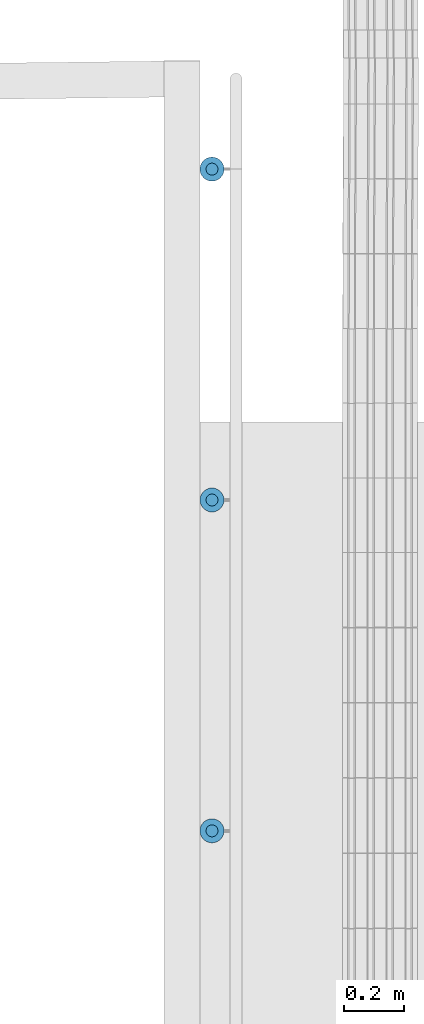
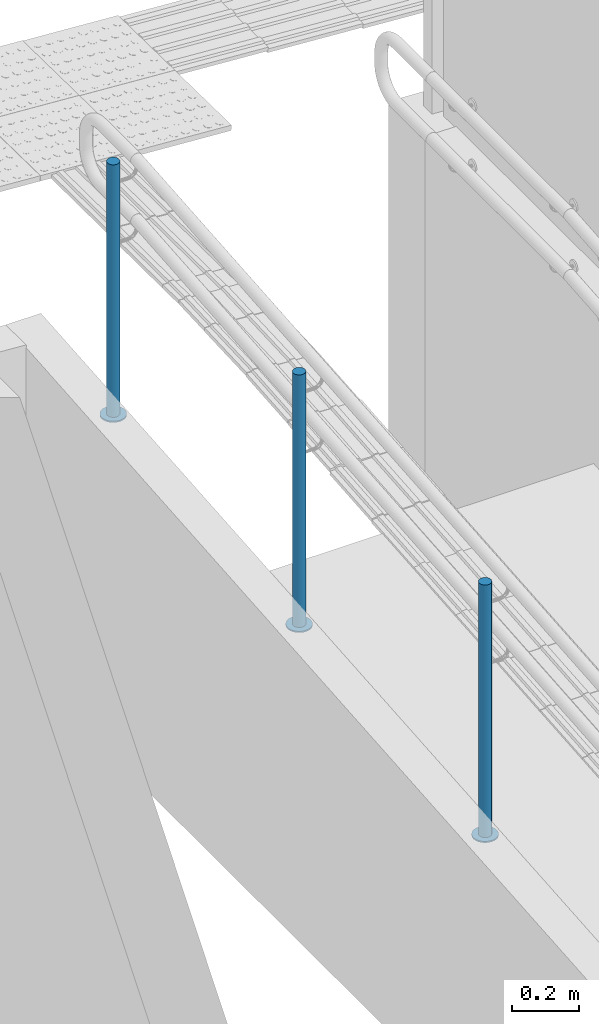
# One storey, part 122 of 237: 6 building element parts, 1 element without a shape of its own.
"""IFC2X3 building model written with IfcOpenShell, lengths in millimetres."""

from ifc_helpers import new_model, entity, si_unit, converted_unit, derived_unit, money_unit, direction, frame, origin_with_axes, place, context, subcontext, project, spatial, faceted_brep, material, type_object, element, aggregate, save


model = new_model("IFC2X3")

# Units and contexts
model_context = context("Model", 3, precision=0.01, world=origin_with_axes(), true_north=direction((0.0, 1.0)))
body_context = subcontext(model_context, "Body", "Model", "MODEL_VIEW")
ifc_project = project(units=[si_unit("LENGTHUNIT", "METRE", prefix="MILLI"), si_unit("AREAUNIT", "SQUARE_METRE"), si_unit("VOLUMEUNIT", "CUBIC_METRE"), converted_unit("PLANEANGLEUNIT", "DEGREE", entity("IfcPlaneAngleMeasure", 0.0174532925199), si_unit("PLANEANGLEUNIT", "RADIAN"), dimensions=[0, 0, 0, 0, 0, 0, 0]), money_unit("USD"), converted_unit("TIMEUNIT", "Year", entity("IfcTimeMeasure", 31556926.0), si_unit("TIMEUNIT", "SECOND"), dimensions=[0, 0, 1, 0, 0, 0, 0]), si_unit("MASSUNIT", "GRAM", prefix="KILO"), si_unit("THERMODYNAMICTEMPERATUREUNIT", "DEGREE_CELSIUS"), si_unit("LUMINOUSINTENSITYUNIT", "LUMEN"), si_unit("ENERGYUNIT", "JOULE", prefix="MEGA"), derived_unit("THERMALCONDUCTANCEUNIT", [(si_unit("POWERUNIT", "WATT"), 1), (si_unit("LENGTHUNIT", "METRE"), -1), (si_unit("THERMODYNAMICTEMPERATUREUNIT", "KELVIN"), -1)]), derived_unit("SPECIFICHEATCAPACITYUNIT", [(si_unit("ENERGYUNIT", "JOULE"), 1), (si_unit("MASSUNIT", "GRAM", prefix="KILO"), -1), (si_unit("THERMODYNAMICTEMPERATUREUNIT", "KELVIN"), -1)]), derived_unit("MASSDENSITYUNIT", [(si_unit("MASSUNIT", "GRAM", prefix="KILO"), 1), (si_unit("VOLUMEUNIT", "CUBIC_METRE"), -1)])], contexts=[model_context])

# Site, building, storey
site_placement = place(None, origin_with_axes())
site = spatial("IfcSite", under=ifc_project, at=site_placement, Name="Local", CompositionType="ELEMENT")
building_placement = place(site_placement, origin_with_axes())
building = spatial("IfcBuilding", under=site, at=building_placement, Name="Construção", CompositionType="ELEMENT")
storey_placement = place(building_placement, origin_with_axes())
storey = spatial("IfcBuildingStorey", under=building, at=storey_placement, Name="Pavimento Térreo", CompositionType="ELEMENT", Elevation=0.0)

# Railing, building element parts
railing_type = type_object("IfcRailingType", Name="Tipo de Guarda-Corpo", PredefinedType="NOTDEFINED")
railing_placement = place(storey_placement, frame((66962.5028921, 35505.5583652, -3484.00572187), z_axis=(0.0, 0.0, 1.0), x_axis=(1.0, 0.0, 0.0)))
railing = element("IfcRailing", 1, at=railing_placement, inside=storey, type_object=railing_type, Name="Guarda-Corpo - 001", PredefinedType="NOTDEFINED")
ifc_material_1 = material(Name="Aço - Inoxidável")
building_element_part_1_placement = place(railing_placement, origin_with_axes())
building_element_part_1 = element("IfcBuildingElementPart", 2, at=building_element_part_1_placement, material=ifc_material_1, Name="Aço - Inoxidável", context=body_context, shape_type="Brep", body=[
    faceted_brep([(20.3038449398, -266.678611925, 652.887994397), (20.0, -270.151575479, 652.887994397), (20.0, -270.151575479, 1567.8879944), (20.3038449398, -266.678611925, 1567.8879944), (20.3038449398, -273.624539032, 652.887994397), (21.2061475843, -263.311172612, 652.887994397), (22.6794919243, -260.151575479, 652.887994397), (24.6791111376, -257.295823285, 652.887994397), (27.1442478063, -254.830686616, 652.887994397), (30.0, -252.831067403, 652.887994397), (33.1595971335, -251.357723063, 652.887994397), (36.5270364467, -250.455420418, 652.887994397), (40.0, -250.151575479, 652.887994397), (43.4729635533, -250.455420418, 652.887994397), (46.8404028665, -251.357723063, 652.887994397), (50.0, -252.831067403, 652.887994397), (52.8557521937, -254.830686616, 652.887994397), (55.3208888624, -257.295823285, 652.887994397), (57.3205080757, -260.151575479, 652.887994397), (58.7938524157, -263.311172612, 652.887994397), (59.6961550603, -266.678611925, 652.887994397), (60.0, -270.151575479, 652.887994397), (59.6961550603, -273.624539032, 652.887994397), (58.7938524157, -276.991978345, 652.887994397), (57.3205080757, -280.151575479, 652.887994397), (55.3208888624, -283.007327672, 652.887994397), (52.8557521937, -285.472464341, 652.887994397), (50.0, -287.472083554, 652.887994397), (46.8404028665, -288.945427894, 652.887994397), (43.4729635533, -289.847730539, 652.887994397), (40.0, -290.151575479, 652.887994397), (36.5270364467, -289.847730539, 652.887994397), (33.1595971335, -288.945427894, 652.887994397), (30.0, -287.472083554, 652.887994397), (27.1442478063, -285.472464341, 652.887994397), (24.6791111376, -283.007327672, 652.887994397), (22.6794919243, -280.151575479, 652.887994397), (21.2061475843, -276.991978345, 652.887994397), (20.3038449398, -273.624539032, 1567.8879944), (43.4729635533, -250.455420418, 1567.8879944), (40.0, -250.151575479, 1567.8879944), (36.5270364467, -250.455420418, 1567.8879944), (33.1595971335, -251.357723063, 1567.8879944), (30.0, -252.831067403, 1567.8879944), (27.1442478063, -254.830686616, 1567.8879944), (24.6791111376, -257.295823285, 1567.8879944), (22.6794919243, -260.151575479, 1567.8879944), (21.2061475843, -263.311172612, 1567.8879944), (21.2061475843, -276.991978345, 1567.8879944), (22.6794919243, -280.151575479, 1567.8879944), (24.6791111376, -283.007327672, 1567.8879944), (27.1442478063, -285.472464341, 1567.8879944), (30.0, -287.472083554, 1567.8879944), (33.1595971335, -288.945427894, 1567.8879944), (36.5270364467, -289.847730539, 1567.8879944), (40.0, -290.151575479, 1567.8879944), (43.4729635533, -289.847730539, 1567.8879944), (46.8404028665, -288.945427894, 1567.8879944), (50.0, -287.472083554, 1567.8879944), (52.8557521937, -285.472464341, 1567.8879944), (55.3208888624, -283.007327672, 1567.8879944), (57.3205080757, -280.151575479, 1567.8879944), (58.7938524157, -276.991978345, 1567.8879944), (59.6961550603, -273.624539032, 1567.8879944), (60.0, -270.151575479, 1567.8879944), (59.6961550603, -266.678611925, 1567.8879944), (58.7938524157, -263.311172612, 1567.8879944), (57.3205080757, -260.151575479, 1567.8879944), (55.3208888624, -257.295823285, 1567.8879944), (52.8557521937, -254.830686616, 1567.8879944), (50.0, -252.831067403, 1567.8879944), (46.8404028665, -251.357723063, 1567.8879944)], [[[0, 1, 2, 3]], [[4, 1, 0, 5, 6, 7, 8, 9, 10, 11, 12, 13, 14, 15, 16, 17, 18, 19, 20, 21, 22, 23, 24, 25, 26, 27, 28, 29, 30, 31, 32, 33, 34, 35, 36, 37]], [[1, 4, 38, 2]], [[39, 40, 41, 42, 43, 44, 45, 46, 47, 3, 2, 38, 48, 49, 50, 51, 52, 53, 54, 55, 56, 57, 58, 59, 60, 61, 62, 63, 64, 65, 66, 67, 68, 69, 70, 71]], [[5, 0, 3, 47]], [[6, 5, 47, 46]], [[7, 6, 46, 45]], [[8, 7, 45, 44]], [[9, 8, 44, 43]], [[10, 9, 43, 42]], [[11, 10, 42, 41]], [[12, 11, 41, 40]], [[13, 12, 40, 39]], [[14, 13, 39, 71]], [[15, 14, 71, 70]], [[16, 15, 70, 69]], [[17, 16, 69, 68]], [[18, 17, 68, 67]], [[19, 18, 67, 66]], [[20, 19, 66, 65]], [[21, 20, 65, 64]], [[22, 21, 64, 63]], [[23, 22, 63, 62]], [[24, 23, 62, 61]], [[25, 24, 61, 60]], [[26, 25, 60, 59]], [[27, 26, 59, 58]], [[28, 27, 58, 57]], [[29, 28, 57, 56]], [[30, 29, 56, 55]], [[31, 30, 55, 54]], [[32, 31, 54, 53]], [[33, 32, 53, 52]], [[34, 33, 52, 51]], [[35, 34, 51, 50]], [[36, 35, 50, 49]], [[37, 36, 49, 48]], [[4, 37, 48, 38]]]),
])
ifc_material_2 = material(Name="Alumínio")
building_element_part_2_placement = place(railing_placement, origin_with_axes())
building_element_part_2 = element("IfcBuildingElementPart", 3, at=building_element_part_2_placement, material=ifc_material_2, Name="Alumínio", context=body_context, shape_type="Brep", body=[
    faceted_brep([(40.0, -310.151575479, 647.887994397), (46.9459271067, -309.543885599, 647.887994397), (46.9459271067, -309.543885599, 652.887994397), (40.0, -310.151575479, 652.887994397), (33.0540728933, -309.543885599, 647.887994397), (26.319194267, -307.73928031, 647.887994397), (20.0, -304.79259163, 647.887994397), (14.2884956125, -300.793353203, 647.887994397), (9.35822227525, -295.863079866, 647.887994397), (5.35898384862, -290.151575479, 647.887994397), (2.41229516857, -283.832381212, 647.887994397), (0.607689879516, -277.097502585, 647.887994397), (0.0, -270.151575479, 647.887994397), (0.607689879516, -263.205648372, 647.887994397), (2.41229516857, -256.470769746, 647.887994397), (5.35898384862, -250.151575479, 647.887994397), (9.35822227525, -244.440071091, 647.887994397), (14.2884956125, -239.509797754, 647.887994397), (20.0, -235.510559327, 647.887994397), (26.319194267, -232.563870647, 647.887994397), (33.0540728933, -230.759265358, 647.887994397), (40.0, -230.151575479, 647.887994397), (46.9459271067, -230.759265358, 647.887994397), (53.680805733, -232.563870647, 647.887994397), (60.0, -235.510559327, 647.887994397), (65.7115043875, -239.509797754, 647.887994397), (70.6417777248, -244.440071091, 647.887994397), (74.6410161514, -250.151575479, 647.887994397), (77.5877048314, -256.470769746, 647.887994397), (79.3923101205, -263.205648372, 647.887994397), (80.0, -270.151575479, 647.887994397), (79.3923101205, -277.097502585, 647.887994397), (77.5877048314, -283.832381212, 647.887994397), (74.6410161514, -290.151575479, 647.887994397), (70.6417777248, -295.863079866, 647.887994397), (65.7115043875, -300.793353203, 647.887994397), (60.0, -304.79259163, 647.887994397), (53.680805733, -307.73928031, 647.887994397), (53.680805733, -307.73928031, 652.887994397), (60.0, -304.79259163, 652.887994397), (65.7115043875, -300.793353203, 652.887994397), (70.6417777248, -295.863079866, 652.887994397), (74.6410161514, -290.151575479, 652.887994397), (77.5877048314, -283.832381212, 652.887994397), (79.3923101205, -277.097502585, 652.887994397), (80.0, -270.151575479, 652.887994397), (79.3923101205, -263.205648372, 652.887994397), (77.5877048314, -256.470769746, 652.887994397), (74.6410161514, -250.151575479, 652.887994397), (70.6417777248, -244.440071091, 652.887994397), (65.7115043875, -239.509797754, 652.887994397), (60.0, -235.510559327, 652.887994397), (53.680805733, -232.563870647, 652.887994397), (46.9459271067, -230.759265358, 652.887994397), (40.0, -230.151575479, 652.887994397), (33.0540728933, -230.759265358, 652.887994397), (26.319194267, -232.563870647, 652.887994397), (20.0, -235.510559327, 652.887994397), (14.2884956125, -239.509797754, 652.887994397), (9.35822227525, -244.440071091, 652.887994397), (5.35898384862, -250.151575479, 652.887994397), (2.41229516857, -256.470769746, 652.887994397), (0.607689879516, -263.205648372, 652.887994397), (0.0, -270.151575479, 652.887994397), (0.607689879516, -277.097502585, 652.887994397), (2.41229516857, -283.832381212, 652.887994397), (5.35898384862, -290.151575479, 652.887994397), (9.35822227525, -295.863079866, 652.887994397), (14.2884956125, -300.793353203, 652.887994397), (20.0, -304.79259163, 652.887994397), (26.319194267, -307.73928031, 652.887994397), (33.0540728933, -309.543885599, 652.887994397)], [[[0, 1, 2, 3]], [[0, 4, 5, 6, 7, 8, 9, 10, 11, 12, 13, 14, 15, 16, 17, 18, 19, 20, 21, 22, 23, 24, 25, 26, 27, 28, 29, 30, 31, 32, 33, 34, 35, 36, 37, 1]], [[1, 37, 38, 2]], [[3, 2, 38, 39, 40, 41, 42, 43, 44, 45, 46, 47, 48, 49, 50, 51, 52, 53, 54, 55, 56, 57, 58, 59, 60, 61, 62, 63, 64, 65, 66, 67, 68, 69, 70, 71]], [[4, 0, 3, 71]], [[5, 4, 71, 70]], [[6, 5, 70, 69]], [[7, 6, 69, 68]], [[8, 7, 68, 67]], [[9, 8, 67, 66]], [[10, 9, 66, 65]], [[11, 10, 65, 64]], [[12, 11, 64, 63]], [[13, 12, 63, 62]], [[14, 13, 62, 61]], [[15, 14, 61, 60]], [[16, 15, 60, 59]], [[17, 16, 59, 58]], [[18, 17, 58, 57]], [[19, 18, 57, 56]], [[20, 19, 56, 55]], [[21, 20, 55, 54]], [[22, 21, 54, 53]], [[23, 22, 53, 52]], [[24, 23, 52, 51]], [[25, 24, 51, 50]], [[26, 25, 50, 49]], [[27, 26, 49, 48]], [[28, 27, 48, 47]], [[29, 28, 47, 46]], [[30, 29, 46, 45]], [[31, 30, 45, 44]], [[32, 31, 44, 43]], [[33, 32, 43, 42]], [[34, 33, 42, 41]], [[35, 34, 41, 40]], [[36, 35, 40, 39]], [[37, 36, 39, 38]]]),
])
building_element_part_3_placement = place(railing_placement, origin_with_axes())
building_element_part_3 = element("IfcBuildingElementPart", 4, at=building_element_part_3_placement, material=ifc_material_1, Name="Aço - Inoxidável", context=body_context, shape_type="Brep", body=[
    faceted_brep([(20.3038449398, -1370.44563377, 560.809265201), (20.0, -1373.91859732, 560.809265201), (20.0, -1373.91859732, 1475.8092652), (20.3038449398, -1370.44563377, 1475.8092652), (20.3038449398, -1377.39156088, 560.809265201), (21.2061475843, -1367.07819446, 560.809265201), (22.6794919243, -1363.91859732, 560.809265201), (24.6791111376, -1361.06284513, 560.809265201), (27.1442478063, -1358.59770846, 560.809265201), (30.0, -1356.59808925, 560.809265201), (33.1595971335, -1355.12474491, 560.809265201), (36.5270364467, -1354.22244226, 560.809265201), (40.0, -1353.91859732, 560.809265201), (43.4729635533, -1354.22244226, 560.809265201), (46.8404028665, -1355.12474491, 560.809265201), (50.0, -1356.59808925, 560.809265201), (52.8557521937, -1358.59770846, 560.809265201), (55.3208888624, -1361.06284513, 560.809265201), (57.3205080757, -1363.91859732, 560.809265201), (58.7938524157, -1367.07819446, 560.809265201), (59.6961550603, -1370.44563377, 560.809265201), (60.0, -1373.91859732, 560.809265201), (59.6961550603, -1377.39156088, 560.809265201), (58.7938524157, -1380.75900019, 560.809265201), (57.3205080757, -1383.91859732, 560.809265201), (55.3208888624, -1386.77434952, 560.809265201), (52.8557521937, -1389.23948619, 560.809265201), (50.0, -1391.2391054, 560.809265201), (46.8404028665, -1392.71244974, 560.809265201), (43.4729635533, -1393.61475238, 560.809265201), (40.0, -1393.91859732, 560.809265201), (36.5270364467, -1393.61475238, 560.809265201), (33.1595971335, -1392.71244974, 560.809265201), (30.0, -1391.2391054, 560.809265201), (27.1442478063, -1389.23948619, 560.809265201), (24.6791111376, -1386.77434952, 560.809265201), (22.6794919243, -1383.91859732, 560.809265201), (21.2061475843, -1380.75900019, 560.809265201), (20.3038449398, -1377.39156088, 1475.8092652), (43.4729635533, -1354.22244226, 1475.8092652), (40.0, -1353.91859732, 1475.8092652), (36.5270364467, -1354.22244226, 1475.8092652), (33.1595971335, -1355.12474491, 1475.8092652), (30.0, -1356.59808925, 1475.8092652), (27.1442478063, -1358.59770846, 1475.8092652), (24.6791111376, -1361.06284513, 1475.8092652), (22.6794919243, -1363.91859732, 1475.8092652), (21.2061475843, -1367.07819446, 1475.8092652), (21.2061475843, -1380.75900019, 1475.8092652), (22.6794919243, -1383.91859732, 1475.8092652), (24.6791111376, -1386.77434952, 1475.8092652), (27.1442478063, -1389.23948619, 1475.8092652), (30.0, -1391.2391054, 1475.8092652), (33.1595971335, -1392.71244974, 1475.8092652), (36.5270364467, -1393.61475238, 1475.8092652), (40.0, -1393.91859732, 1475.8092652), (43.4729635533, -1393.61475238, 1475.8092652), (46.8404028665, -1392.71244974, 1475.8092652), (50.0, -1391.2391054, 1475.8092652), (52.8557521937, -1389.23948619, 1475.8092652), (55.3208888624, -1386.77434952, 1475.8092652), (57.3205080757, -1383.91859732, 1475.8092652), (58.7938524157, -1380.75900019, 1475.8092652), (59.6961550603, -1377.39156088, 1475.8092652), (60.0, -1373.91859732, 1475.8092652), (59.6961550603, -1370.44563377, 1475.8092652), (58.7938524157, -1367.07819446, 1475.8092652), (57.3205080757, -1363.91859732, 1475.8092652), (55.3208888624, -1361.06284513, 1475.8092652), (52.8557521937, -1358.59770846, 1475.8092652), (50.0, -1356.59808925, 1475.8092652), (46.8404028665, -1355.12474491, 1475.8092652)], [[[0, 1, 2, 3]], [[4, 1, 0, 5, 6, 7, 8, 9, 10, 11, 12, 13, 14, 15, 16, 17, 18, 19, 20, 21, 22, 23, 24, 25, 26, 27, 28, 29, 30, 31, 32, 33, 34, 35, 36, 37]], [[1, 4, 38, 2]], [[39, 40, 41, 42, 43, 44, 45, 46, 47, 3, 2, 38, 48, 49, 50, 51, 52, 53, 54, 55, 56, 57, 58, 59, 60, 61, 62, 63, 64, 65, 66, 67, 68, 69, 70, 71]], [[5, 0, 3, 47]], [[6, 5, 47, 46]], [[7, 6, 46, 45]], [[8, 7, 45, 44]], [[9, 8, 44, 43]], [[10, 9, 43, 42]], [[11, 10, 42, 41]], [[12, 11, 41, 40]], [[13, 12, 40, 39]], [[14, 13, 39, 71]], [[15, 14, 71, 70]], [[16, 15, 70, 69]], [[17, 16, 69, 68]], [[18, 17, 68, 67]], [[19, 18, 67, 66]], [[20, 19, 66, 65]], [[21, 20, 65, 64]], [[22, 21, 64, 63]], [[23, 22, 63, 62]], [[24, 23, 62, 61]], [[25, 24, 61, 60]], [[26, 25, 60, 59]], [[27, 26, 59, 58]], [[28, 27, 58, 57]], [[29, 28, 57, 56]], [[30, 29, 56, 55]], [[31, 30, 55, 54]], [[32, 31, 54, 53]], [[33, 32, 53, 52]], [[34, 33, 52, 51]], [[35, 34, 51, 50]], [[36, 35, 50, 49]], [[37, 36, 49, 48]], [[4, 37, 48, 38]]]),
])
building_element_part_4_placement = place(railing_placement, origin_with_axes())
building_element_part_4 = element("IfcBuildingElementPart", 5, at=building_element_part_4_placement, material=ifc_material_2, Name="Alumínio", context=body_context, shape_type="Brep", body=[
    faceted_brep([(40.0, -1413.91859732, 555.809265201), (46.9459271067, -1413.31090744, 555.809265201), (46.9459271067, -1413.31090744, 560.809265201), (40.0, -1413.91859732, 560.809265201), (33.0540728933, -1413.31090744, 555.809265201), (26.319194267, -1411.50630216, 555.809265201), (20.0, -1408.55961347, 555.809265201), (14.2884956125, -1404.56037505, 555.809265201), (9.35822227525, -1399.63010171, 555.809265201), (5.35898384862, -1393.91859732, 555.809265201), (2.41229516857, -1387.59940306, 555.809265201), (0.607689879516, -1380.86452443, 555.809265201), (0.0, -1373.91859732, 555.809265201), (0.607689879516, -1366.97267022, 555.809265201), (2.41229516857, -1360.23779159, 555.809265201), (5.35898384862, -1353.91859732, 555.809265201), (9.35822227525, -1348.20709294, 555.809265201), (14.2884956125, -1343.2768196, 555.809265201), (20.0, -1339.27758117, 555.809265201), (26.319194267, -1336.33089249, 555.809265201), (33.0540728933, -1334.5262872, 555.809265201), (40.0, -1333.91859732, 555.809265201), (46.9459271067, -1334.5262872, 555.809265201), (53.680805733, -1336.33089249, 555.809265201), (60.0, -1339.27758117, 555.809265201), (65.7115043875, -1343.2768196, 555.809265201), (70.6417777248, -1348.20709294, 555.809265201), (74.6410161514, -1353.91859732, 555.809265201), (77.5877048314, -1360.23779159, 555.809265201), (79.3923101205, -1366.97267022, 555.809265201), (80.0, -1373.91859732, 555.809265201), (79.3923101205, -1380.86452443, 555.809265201), (77.5877048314, -1387.59940306, 555.809265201), (74.6410161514, -1393.91859732, 555.809265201), (70.6417777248, -1399.63010171, 555.809265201), (65.7115043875, -1404.56037505, 555.809265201), (60.0, -1408.55961347, 555.809265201), (53.680805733, -1411.50630216, 555.809265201), (53.680805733, -1411.50630216, 560.809265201), (60.0, -1408.55961347, 560.809265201), (65.7115043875, -1404.56037505, 560.809265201), (70.6417777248, -1399.63010171, 560.809265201), (74.6410161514, -1393.91859732, 560.809265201), (77.5877048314, -1387.59940306, 560.809265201), (79.3923101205, -1380.86452443, 560.809265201), (80.0, -1373.91859732, 560.809265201), (79.3923101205, -1366.97267022, 560.809265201), (77.5877048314, -1360.23779159, 560.809265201), (74.6410161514, -1353.91859732, 560.809265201), (70.6417777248, -1348.20709294, 560.809265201), (65.7115043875, -1343.2768196, 560.809265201), (60.0, -1339.27758117, 560.809265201), (53.680805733, -1336.33089249, 560.809265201), (46.9459271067, -1334.5262872, 560.809265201), (40.0, -1333.91859732, 560.809265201), (33.0540728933, -1334.5262872, 560.809265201), (26.319194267, -1336.33089249, 560.809265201), (20.0, -1339.27758117, 560.809265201), (14.2884956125, -1343.2768196, 560.809265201), (9.35822227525, -1348.20709294, 560.809265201), (5.35898384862, -1353.91859732, 560.809265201), (2.41229516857, -1360.23779159, 560.809265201), (0.607689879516, -1366.97267022, 560.809265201), (0.0, -1373.91859732, 560.809265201), (0.607689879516, -1380.86452443, 560.809265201), (2.41229516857, -1387.59940306, 560.809265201), (5.35898384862, -1393.91859732, 560.809265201), (9.35822227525, -1399.63010171, 560.809265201), (14.2884956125, -1404.56037505, 560.809265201), (20.0, -1408.55961347, 560.809265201), (26.319194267, -1411.50630216, 560.809265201), (33.0540728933, -1413.31090744, 560.809265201)], [[[0, 1, 2, 3]], [[0, 4, 5, 6, 7, 8, 9, 10, 11, 12, 13, 14, 15, 16, 17, 18, 19, 20, 21, 22, 23, 24, 25, 26, 27, 28, 29, 30, 31, 32, 33, 34, 35, 36, 37, 1]], [[1, 37, 38, 2]], [[3, 2, 38, 39, 40, 41, 42, 43, 44, 45, 46, 47, 48, 49, 50, 51, 52, 53, 54, 55, 56, 57, 58, 59, 60, 61, 62, 63, 64, 65, 66, 67, 68, 69, 70, 71]], [[4, 0, 3, 71]], [[5, 4, 71, 70]], [[6, 5, 70, 69]], [[7, 6, 69, 68]], [[8, 7, 68, 67]], [[9, 8, 67, 66]], [[10, 9, 66, 65]], [[11, 10, 65, 64]], [[12, 11, 64, 63]], [[13, 12, 63, 62]], [[14, 13, 62, 61]], [[15, 14, 61, 60]], [[16, 15, 60, 59]], [[17, 16, 59, 58]], [[18, 17, 58, 57]], [[19, 18, 57, 56]], [[20, 19, 56, 55]], [[21, 20, 55, 54]], [[22, 21, 54, 53]], [[23, 22, 53, 52]], [[24, 23, 52, 51]], [[25, 24, 51, 50]], [[26, 25, 50, 49]], [[27, 26, 49, 48]], [[28, 27, 48, 47]], [[29, 28, 47, 46]], [[30, 29, 46, 45]], [[31, 30, 45, 44]], [[32, 31, 44, 43]], [[33, 32, 43, 42]], [[34, 33, 42, 41]], [[35, 34, 41, 40]], [[36, 35, 40, 39]], [[37, 36, 39, 38]]]),
])
building_element_part_5_placement = place(railing_placement, origin_with_axes())
building_element_part_5 = element("IfcBuildingElementPart", 6, at=building_element_part_5_placement, material=ifc_material_1, Name="Aço - Inoxidável", context=body_context, shape_type="Brep", body=[
    faceted_brep([(20.3038449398, -2474.21265562, 468.730536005), (20.0, -2477.68561917, 468.730536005), (20.0, -2477.68561917, 1383.73053601), (20.3038449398, -2474.21265562, 1383.73053601), (20.3038449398, -2481.15858272, 468.730536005), (21.2061475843, -2470.8452163, 468.730536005), (22.6794919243, -2467.68561917, 468.730536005), (24.6791111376, -2464.82986697, 468.730536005), (27.1442478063, -2462.36473031, 468.730536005), (30.0, -2460.36511109, 468.730536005), (33.1595971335, -2458.89176675, 468.730536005), (36.5270364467, -2457.98946411, 468.730536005), (40.0, -2457.68561917, 468.730536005), (43.4729635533, -2457.98946411, 468.730536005), (46.8404028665, -2458.89176675, 468.730536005), (50.0, -2460.36511109, 468.730536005), (52.8557521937, -2462.36473031, 468.730536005), (55.3208888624, -2464.82986697, 468.730536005), (57.3205080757, -2467.68561917, 468.730536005), (58.7938524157, -2470.8452163, 468.730536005), (59.6961550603, -2474.21265562, 468.730536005), (60.0, -2477.68561917, 468.730536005), (59.6961550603, -2481.15858272, 468.730536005), (58.7938524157, -2484.52602204, 468.730536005), (57.3205080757, -2487.68561917, 468.730536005), (55.3208888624, -2490.54137136, 468.730536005), (52.8557521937, -2493.00650803, 468.730536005), (50.0, -2495.00612724, 468.730536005), (46.8404028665, -2496.47947158, 468.730536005), (43.4729635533, -2497.38177423, 468.730536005), (40.0, -2497.68561917, 468.730536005), (36.5270364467, -2497.38177423, 468.730536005), (33.1595971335, -2496.47947158, 468.730536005), (30.0, -2495.00612724, 468.730536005), (27.1442478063, -2493.00650803, 468.730536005), (24.6791111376, -2490.54137136, 468.730536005), (22.6794919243, -2487.68561917, 468.730536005), (21.2061475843, -2484.52602204, 468.730536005), (20.3038449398, -2481.15858272, 1383.73053601), (43.4729635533, -2457.98946411, 1383.73053601), (40.0, -2457.68561917, 1383.73053601), (36.5270364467, -2457.98946411, 1383.73053601), (33.1595971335, -2458.89176675, 1383.73053601), (30.0, -2460.36511109, 1383.73053601), (27.1442478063, -2462.36473031, 1383.73053601), (24.6791111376, -2464.82986697, 1383.73053601), (22.6794919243, -2467.68561917, 1383.73053601), (21.2061475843, -2470.8452163, 1383.73053601), (21.2061475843, -2484.52602204, 1383.73053601), (22.6794919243, -2487.68561917, 1383.73053601), (24.6791111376, -2490.54137136, 1383.73053601), (27.1442478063, -2493.00650803, 1383.73053601), (30.0, -2495.00612724, 1383.73053601), (33.1595971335, -2496.47947158, 1383.73053601), (36.5270364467, -2497.38177423, 1383.73053601), (40.0, -2497.68561917, 1383.73053601), (43.4729635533, -2497.38177423, 1383.73053601), (46.8404028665, -2496.47947158, 1383.73053601), (50.0, -2495.00612724, 1383.73053601), (52.8557521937, -2493.00650803, 1383.73053601), (55.3208888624, -2490.54137136, 1383.73053601), (57.3205080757, -2487.68561917, 1383.73053601), (58.7938524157, -2484.52602204, 1383.73053601), (59.6961550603, -2481.15858272, 1383.73053601), (60.0, -2477.68561917, 1383.73053601), (59.6961550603, -2474.21265562, 1383.73053601), (58.7938524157, -2470.8452163, 1383.73053601), (57.3205080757, -2467.68561917, 1383.73053601), (55.3208888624, -2464.82986697, 1383.73053601), (52.8557521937, -2462.36473031, 1383.73053601), (50.0, -2460.36511109, 1383.73053601), (46.8404028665, -2458.89176675, 1383.73053601)], [[[0, 1, 2, 3]], [[4, 1, 0, 5, 6, 7, 8, 9, 10, 11, 12, 13, 14, 15, 16, 17, 18, 19, 20, 21, 22, 23, 24, 25, 26, 27, 28, 29, 30, 31, 32, 33, 34, 35, 36, 37]], [[1, 4, 38, 2]], [[39, 40, 41, 42, 43, 44, 45, 46, 47, 3, 2, 38, 48, 49, 50, 51, 52, 53, 54, 55, 56, 57, 58, 59, 60, 61, 62, 63, 64, 65, 66, 67, 68, 69, 70, 71]], [[5, 0, 3, 47]], [[6, 5, 47, 46]], [[7, 6, 46, 45]], [[8, 7, 45, 44]], [[9, 8, 44, 43]], [[10, 9, 43, 42]], [[11, 10, 42, 41]], [[12, 11, 41, 40]], [[13, 12, 40, 39]], [[14, 13, 39, 71]], [[15, 14, 71, 70]], [[16, 15, 70, 69]], [[17, 16, 69, 68]], [[18, 17, 68, 67]], [[19, 18, 67, 66]], [[20, 19, 66, 65]], [[21, 20, 65, 64]], [[22, 21, 64, 63]], [[23, 22, 63, 62]], [[24, 23, 62, 61]], [[25, 24, 61, 60]], [[26, 25, 60, 59]], [[27, 26, 59, 58]], [[28, 27, 58, 57]], [[29, 28, 57, 56]], [[30, 29, 56, 55]], [[31, 30, 55, 54]], [[32, 31, 54, 53]], [[33, 32, 53, 52]], [[34, 33, 52, 51]], [[35, 34, 51, 50]], [[36, 35, 50, 49]], [[37, 36, 49, 48]], [[4, 37, 48, 38]]]),
])
building_element_part_6_placement = place(railing_placement, origin_with_axes())
building_element_part_6 = element("IfcBuildingElementPart", 7, at=building_element_part_6_placement, material=ifc_material_2, Name="Alumínio", context=body_context, shape_type="Brep", body=[
    faceted_brep([(40.0, -2517.68561917, 463.730536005), (46.9459271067, -2517.07792929, 463.730536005), (46.9459271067, -2517.07792929, 468.730536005), (40.0, -2517.68561917, 468.730536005), (33.0540728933, -2517.07792929, 463.730536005), (26.319194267, -2515.273324, 463.730536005), (20.0, -2512.32663532, 463.730536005), (14.2884956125, -2508.32739689, 463.730536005), (9.35822227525, -2503.39712356, 463.730536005), (5.35898384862, -2497.68561917, 463.730536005), (2.41229516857, -2491.3664249, 463.730536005), (0.607689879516, -2484.63154628, 463.730536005), (0.0, -2477.68561917, 463.730536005), (0.607689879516, -2470.73969206, 463.730536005), (2.41229516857, -2464.00481344, 463.730536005), (5.35898384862, -2457.68561917, 463.730536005), (9.35822227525, -2451.97411478, 463.730536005), (14.2884956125, -2447.04384144, 463.730536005), (20.0, -2443.04460302, 463.730536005), (26.319194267, -2440.09791434, 463.730536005), (33.0540728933, -2438.29330905, 463.730536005), (40.0, -2437.68561917, 463.730536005), (46.9459271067, -2438.29330905, 463.730536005), (53.680805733, -2440.09791434, 463.730536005), (60.0, -2443.04460302, 463.730536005), (65.7115043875, -2447.04384144, 463.730536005), (70.6417777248, -2451.97411478, 463.730536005), (74.6410161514, -2457.68561917, 463.730536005), (77.5877048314, -2464.00481344, 463.730536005), (79.3923101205, -2470.73969206, 463.730536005), (80.0, -2477.68561917, 463.730536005), (79.3923101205, -2484.63154628, 463.730536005), (77.5877048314, -2491.3664249, 463.730536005), (74.6410161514, -2497.68561917, 463.730536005), (70.6417777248, -2503.39712356, 463.730536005), (65.7115043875, -2508.32739689, 463.730536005), (60.0, -2512.32663532, 463.730536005), (53.680805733, -2515.273324, 463.730536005), (53.680805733, -2515.273324, 468.730536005), (60.0, -2512.32663532, 468.730536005), (65.7115043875, -2508.32739689, 468.730536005), (70.6417777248, -2503.39712356, 468.730536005), (74.6410161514, -2497.68561917, 468.730536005), (77.5877048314, -2491.3664249, 468.730536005), (79.3923101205, -2484.63154628, 468.730536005), (80.0, -2477.68561917, 468.730536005), (79.3923101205, -2470.73969206, 468.730536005), (77.5877048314, -2464.00481344, 468.730536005), (74.6410161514, -2457.68561917, 468.730536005), (70.6417777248, -2451.97411478, 468.730536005), (65.7115043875, -2447.04384144, 468.730536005), (60.0, -2443.04460302, 468.730536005), (53.680805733, -2440.09791434, 468.730536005), (46.9459271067, -2438.29330905, 468.730536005), (40.0, -2437.68561917, 468.730536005), (33.0540728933, -2438.29330905, 468.730536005), (26.319194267, -2440.09791434, 468.730536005), (20.0, -2443.04460302, 468.730536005), (14.2884956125, -2447.04384144, 468.730536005), (9.35822227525, -2451.97411478, 468.730536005), (5.35898384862, -2457.68561917, 468.730536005), (2.41229516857, -2464.00481344, 468.730536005), (0.607689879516, -2470.73969206, 468.730536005), (0.0, -2477.68561917, 468.730536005), (0.607689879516, -2484.63154628, 468.730536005), (2.41229516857, -2491.3664249, 468.730536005), (5.35898384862, -2497.68561917, 468.730536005), (9.35822227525, -2503.39712356, 468.730536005), (14.2884956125, -2508.32739689, 468.730536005), (20.0, -2512.32663532, 468.730536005), (26.319194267, -2515.273324, 468.730536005), (33.0540728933, -2517.07792929, 468.730536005)], [[[0, 1, 2, 3]], [[0, 4, 5, 6, 7, 8, 9, 10, 11, 12, 13, 14, 15, 16, 17, 18, 19, 20, 21, 22, 23, 24, 25, 26, 27, 28, 29, 30, 31, 32, 33, 34, 35, 36, 37, 1]], [[1, 37, 38, 2]], [[3, 2, 38, 39, 40, 41, 42, 43, 44, 45, 46, 47, 48, 49, 50, 51, 52, 53, 54, 55, 56, 57, 58, 59, 60, 61, 62, 63, 64, 65, 66, 67, 68, 69, 70, 71]], [[4, 0, 3, 71]], [[5, 4, 71, 70]], [[6, 5, 70, 69]], [[7, 6, 69, 68]], [[8, 7, 68, 67]], [[9, 8, 67, 66]], [[10, 9, 66, 65]], [[11, 10, 65, 64]], [[12, 11, 64, 63]], [[13, 12, 63, 62]], [[14, 13, 62, 61]], [[15, 14, 61, 60]], [[16, 15, 60, 59]], [[17, 16, 59, 58]], [[18, 17, 58, 57]], [[19, 18, 57, 56]], [[20, 19, 56, 55]], [[21, 20, 55, 54]], [[22, 21, 54, 53]], [[23, 22, 53, 52]], [[24, 23, 52, 51]], [[25, 24, 51, 50]], [[26, 25, 50, 49]], [[27, 26, 49, 48]], [[28, 27, 48, 47]], [[29, 28, 47, 46]], [[30, 29, 46, 45]], [[31, 30, 45, 44]], [[32, 31, 44, 43]], [[33, 32, 43, 42]], [[34, 33, 42, 41]], [[35, 34, 41, 40]], [[36, 35, 40, 39]], [[37, 36, 39, 38]]]),
])
aggregate(railing, [building_element_part_1, building_element_part_2, building_element_part_3, building_element_part_4, building_element_part_5, building_element_part_6])

save(model, "model.ifc")
